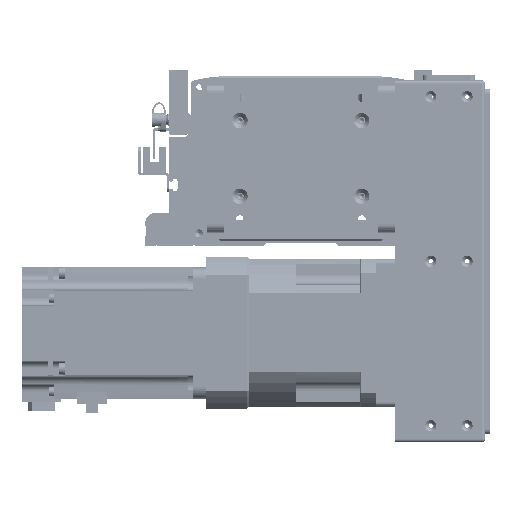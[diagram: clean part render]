
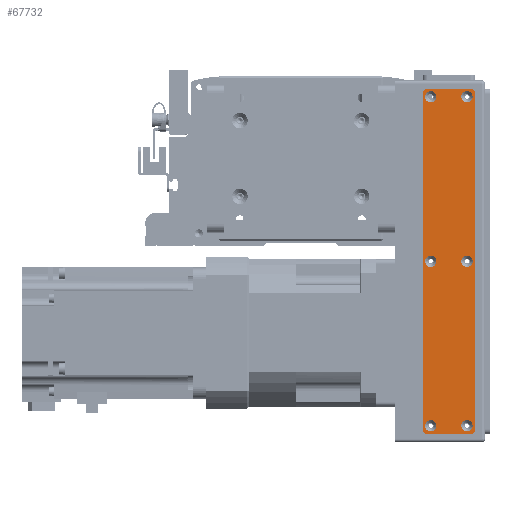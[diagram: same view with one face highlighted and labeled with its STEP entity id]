
A CAD part, front view. The second image highlights one B-rep face of the part: STEP entity #67732.
In plain terms, the highlighted planar face has unit normal (0, -1, 0).
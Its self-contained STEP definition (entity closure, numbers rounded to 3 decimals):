
#1821=FACE_BOUND('',#14103,.T.);
#1822=FACE_BOUND('',#14104,.T.);
#1823=FACE_BOUND('',#14105,.T.);
#1824=FACE_BOUND('',#14106,.T.);
#1825=FACE_BOUND('',#14107,.T.);
#1826=FACE_BOUND('',#14108,.T.);
#5129=PLANE('',#74913);
#9801=FACE_OUTER_BOUND('',#14102,.T.);
#14102=EDGE_LOOP('',(#63673,#63674,#63675,#63676,#63677,#63678,#63679,#63680));
#14103=EDGE_LOOP('',(#63681));
#14104=EDGE_LOOP('',(#63682));
#14105=EDGE_LOOP('',(#63683));
#14106=EDGE_LOOP('',(#63684));
#14107=EDGE_LOOP('',(#63685));
#14108=EDGE_LOOP('',(#63686));
#20401=LINE('',#116488,#26655);
#20402=LINE('',#116492,#26656);
#20403=LINE('',#116496,#26657);
#20404=LINE('',#116499,#26658);
#26655=VECTOR('',#94164,10.);
#26656=VECTOR('',#94167,10.);
#26657=VECTOR('',#94170,10.);
#26658=VECTOR('',#94173,10.);
#29271=CIRCLE('',#74881,3.45);
#29274=CIRCLE('',#74886,3.45);
#29277=CIRCLE('',#74891,3.45);
#29280=CIRCLE('',#74896,3.45);
#29283=CIRCLE('',#74901,3.45);
#29286=CIRCLE('',#74906,3.45);
#29289=CIRCLE('',#74911,3.);
#29291=CIRCLE('',#74914,3.);
#29292=CIRCLE('',#74915,3.);
#29293=CIRCLE('',#74916,3.);
#35498=VERTEX_POINT('',#116418);
#35501=VERTEX_POINT('',#116428);
#35504=VERTEX_POINT('',#116438);
#35507=VERTEX_POINT('',#116448);
#35510=VERTEX_POINT('',#116458);
#35513=VERTEX_POINT('',#116468);
#35516=VERTEX_POINT('',#116478);
#35517=VERTEX_POINT('',#116479);
#35520=VERTEX_POINT('',#116487);
#35521=VERTEX_POINT('',#116489);
#35522=VERTEX_POINT('',#116491);
#35523=VERTEX_POINT('',#116493);
#35524=VERTEX_POINT('',#116495);
#35525=VERTEX_POINT('',#116497);
#44887=EDGE_CURVE('',#35498,#35498,#29271,.T.);
#44892=EDGE_CURVE('',#35501,#35501,#29274,.T.);
#44897=EDGE_CURVE('',#35504,#35504,#29277,.T.);
#44902=EDGE_CURVE('',#35507,#35507,#29280,.T.);
#44907=EDGE_CURVE('',#35510,#35510,#29283,.T.);
#44912=EDGE_CURVE('',#35513,#35513,#29286,.T.);
#44917=EDGE_CURVE('',#35516,#35517,#29289,.T.);
#44921=EDGE_CURVE('',#35516,#35520,#20401,.T.);
#44922=EDGE_CURVE('',#35521,#35520,#29291,.T.);
#44923=EDGE_CURVE('',#35521,#35522,#20402,.T.);
#44924=EDGE_CURVE('',#35523,#35522,#29292,.T.);
#44925=EDGE_CURVE('',#35523,#35524,#20403,.T.);
#44926=EDGE_CURVE('',#35525,#35524,#29293,.T.);
#44927=EDGE_CURVE('',#35525,#35517,#20404,.T.);
#63673=ORIENTED_EDGE('',*,*,#44917,.F.);
#63674=ORIENTED_EDGE('',*,*,#44921,.T.);
#63675=ORIENTED_EDGE('',*,*,#44922,.F.);
#63676=ORIENTED_EDGE('',*,*,#44923,.T.);
#63677=ORIENTED_EDGE('',*,*,#44924,.F.);
#63678=ORIENTED_EDGE('',*,*,#44925,.T.);
#63679=ORIENTED_EDGE('',*,*,#44926,.F.);
#63680=ORIENTED_EDGE('',*,*,#44927,.T.);
#63681=ORIENTED_EDGE('',*,*,#44887,.T.);
#63682=ORIENTED_EDGE('',*,*,#44892,.T.);
#63683=ORIENTED_EDGE('',*,*,#44897,.T.);
#63684=ORIENTED_EDGE('',*,*,#44902,.T.);
#63685=ORIENTED_EDGE('',*,*,#44907,.T.);
#63686=ORIENTED_EDGE('',*,*,#44912,.T.);
#67732=ADVANCED_FACE('',(#9801,#1821,#1822,#1823,#1824,#1825,#1826),#5129,
 .T.);
#74881=AXIS2_PLACEMENT_3D('',#116419,#94084,#94085);
#74886=AXIS2_PLACEMENT_3D('',#116429,#94096,#94097);
#74891=AXIS2_PLACEMENT_3D('',#116439,#94108,#94109);
#74896=AXIS2_PLACEMENT_3D('',#116449,#94120,#94121);
#74901=AXIS2_PLACEMENT_3D('',#116459,#94132,#94133);
#74906=AXIS2_PLACEMENT_3D('',#116469,#94144,#94145);
#74911=AXIS2_PLACEMENT_3D('',#116480,#94156,#94157);
#74913=AXIS2_PLACEMENT_3D('',#116486,#94162,#94163);
#74914=AXIS2_PLACEMENT_3D('',#116490,#94165,#94166);
#74915=AXIS2_PLACEMENT_3D('',#116494,#94168,#94169);
#74916=AXIS2_PLACEMENT_3D('',#116498,#94171,#94172);
#94084=DIRECTION('center_axis',(0.,1.,0.));
#94085=DIRECTION('ref_axis',(1.,0.,0.));
#94096=DIRECTION('center_axis',(0.,1.,0.));
#94097=DIRECTION('ref_axis',(1.,0.,0.));
#94108=DIRECTION('center_axis',(0.,1.,0.));
#94109=DIRECTION('ref_axis',(1.,0.,0.));
#94120=DIRECTION('center_axis',(0.,1.,0.));
#94121=DIRECTION('ref_axis',(1.,0.,0.));
#94132=DIRECTION('center_axis',(0.,1.,0.));
#94133=DIRECTION('ref_axis',(1.,0.,0.));
#94144=DIRECTION('center_axis',(0.,1.,0.));
#94145=DIRECTION('ref_axis',(1.,0.,0.));
#94156=DIRECTION('center_axis',(0.,1.,0.));
#94157=DIRECTION('ref_axis',(-0.707,0.,0.707));
#94162=DIRECTION('center_axis',(0.,-1.,0.));
#94163=DIRECTION('ref_axis',(0.,0.,-1.));
#94164=DIRECTION('',(0.,0.,-1.));
#94165=DIRECTION('center_axis',(0.,1.,0.));
#94166=DIRECTION('ref_axis',(-0.707,0.,-0.707));
#94167=DIRECTION('',(1.,0.,0.));
#94168=DIRECTION('center_axis',(0.,1.,0.));
#94169=DIRECTION('ref_axis',(0.707,0.,-0.707));
#94170=DIRECTION('',(0.,0.,1.));
#94171=DIRECTION('center_axis',(0.,1.,0.));
#94172=DIRECTION('ref_axis',(0.707,0.,0.707));
#94173=DIRECTION('',(-1.,0.,0.));
#116418=CARTESIAN_POINT('',(96.55,-1.5,11.));
#116419=CARTESIAN_POINT('Origin',(100.,-1.5,11.));
#116428=CARTESIAN_POINT('',(-103.45,-1.5,-11.));
#116429=CARTESIAN_POINT('Origin',(-100.,-1.5,-11.));
#116438=CARTESIAN_POINT('',(-3.45,-1.5,11.));
#116439=CARTESIAN_POINT('Origin',(0.,-1.5,11.));
#116448=CARTESIAN_POINT('',(-3.45,-1.5,-11.));
#116449=CARTESIAN_POINT('Origin',(0.,-1.5,-11.));
#116458=CARTESIAN_POINT('',(-103.45,-1.5,11.));
#116459=CARTESIAN_POINT('Origin',(-100.,-1.5,11.));
#116468=CARTESIAN_POINT('',(96.55,-1.5,-11.));
#116469=CARTESIAN_POINT('Origin',(100.,-1.5,-11.));
#116478=CARTESIAN_POINT('',(-105.,-1.5,13.));
#116479=CARTESIAN_POINT('',(-102.,-1.5,16.));
#116480=CARTESIAN_POINT('Origin',(-102.,-1.5,13.));
#116486=CARTESIAN_POINT('Origin',(0.,-1.5,0.));
#116487=CARTESIAN_POINT('',(-105.,-1.5,-13.));
#116488=CARTESIAN_POINT('',(-105.,-1.5,16.));
#116489=CARTESIAN_POINT('',(-102.,-1.5,-16.));
#116490=CARTESIAN_POINT('Origin',(-102.,-1.5,-13.));
#116491=CARTESIAN_POINT('',(102.,-1.5,-16.));
#116492=CARTESIAN_POINT('',(-105.,-1.5,-16.));
#116493=CARTESIAN_POINT('',(105.,-1.5,-13.));
#116494=CARTESIAN_POINT('Origin',(102.,-1.5,-13.));
#116495=CARTESIAN_POINT('',(105.,-1.5,13.));
#116496=CARTESIAN_POINT('',(105.,-1.5,-16.));
#116497=CARTESIAN_POINT('',(102.,-1.5,16.));
#116498=CARTESIAN_POINT('Origin',(102.,-1.5,13.));
#116499=CARTESIAN_POINT('',(105.,-1.5,16.));
